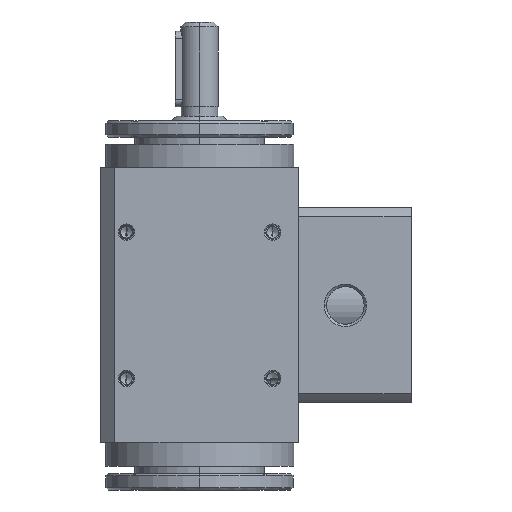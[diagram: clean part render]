
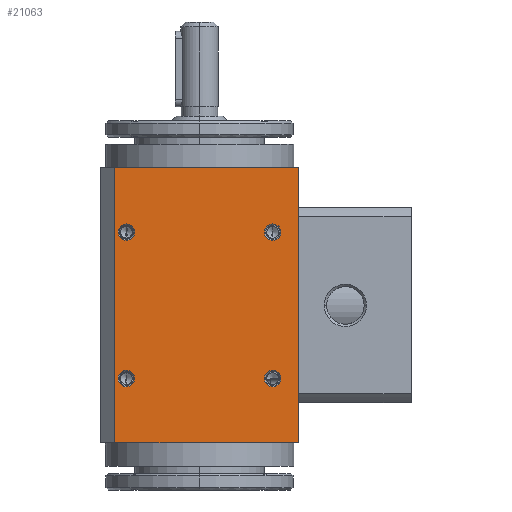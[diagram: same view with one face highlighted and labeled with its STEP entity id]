
A CAD part, front view. The second image highlights one B-rep face of the part: STEP entity #21063.
In plain terms, the highlighted planar face has unit normal (0, -1, 0).
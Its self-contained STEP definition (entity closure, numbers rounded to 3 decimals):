
#1582 = CARTESIAN_POINT ( 'NONE',  ( -21., -21., -29.25 ) ) ;
#1583 = LINE ( 'NONE', #1582, #1682 ) ;
#1682 = VECTOR ( 'NONE', #1727, 1000. ) ;
#1727 = DIRECTION ( 'NONE',  ( -1., 0., 0. ) ) ;
#2386 = CARTESIAN_POINT ( 'NONE',  ( -21., -21., 34.25 ) ) ;
#2391 = DIRECTION ( 'NONE',  ( 0., 0., -1. ) ) ;
#2403 = FACE_OUTER_BOUND ( 'NONE', #29740, .T. ) ;
#2404 = FACE_BOUND ( 'NONE', #29713, .T. ) ;
#2405 = CIRCLE ( 'NONE', #2462, 1.75 ) ;
#2406 = AXIS2_PLACEMENT_3D ( 'NONE', #2386, #2409, #2422 ) ;
#2407 = DIRECTION ( 'NONE',  ( 0., -1., 0. ) ) ;
#2409 = DIRECTION ( 'NONE',  ( 0., 1., 0. ) ) ;
#2410 = PLANE ( 'NONE',  #2406 ) ;
#2412 = FACE_BOUND ( 'NONE', #29704, .T. ) ;
#2422 = DIRECTION ( 'NONE',  ( -1., 0., 0. ) ) ;
#2437 = CARTESIAN_POINT ( 'NONE',  ( 15.556, -21., -15.556 ) ) ;
#2462 = AXIS2_PLACEMENT_3D ( 'NONE', #2437, #2407, #2391 ) ;
#2463 = FACE_BOUND ( 'NONE', #29736, .T. ) ;
#2464 = FACE_BOUND ( 'NONE', #29707, .T. ) ;
#2499 = LINE ( 'NONE', #2500, #2533 ) ;
#2500 = CARTESIAN_POINT ( 'NONE',  ( -18., -21., 34.25 ) ) ;
#2520 = CARTESIAN_POINT ( 'NONE',  ( -18., -21., -29.25 ) ) ;
#2533 = VECTOR ( 'NONE', #2538, 1000. ) ;
#2538 = DIRECTION ( 'NONE',  ( 0., 0., -1. ) ) ;
#5447 = CARTESIAN_POINT ( 'NONE',  ( 21., -21., 29.25 ) ) ;
#5777 = CARTESIAN_POINT ( 'NONE',  ( 21., -21., -29.25 ) ) ;
#6024 = DIRECTION ( 'NONE',  ( 0., 0., -1. ) ) ;
#6025 = VECTOR ( 'NONE', #6024, 1000. ) ;
#6026 = CARTESIAN_POINT ( 'NONE',  ( 21., -21., 34.25 ) ) ;
#6060 = DIRECTION ( 'NONE',  ( 0., 0., -1. ) ) ;
#6061 = DIRECTION ( 'NONE',  ( 0., -1., 0. ) ) ;
#6062 = CARTESIAN_POINT ( 'NONE',  ( -15.556, -21., 15.556 ) ) ;
#6063 = AXIS2_PLACEMENT_3D ( 'NONE', #6062, #6061, #6060 ) ;
#6064 = CIRCLE ( 'NONE', #6063, 1.75 ) ;
#6065 = DIRECTION ( 'NONE',  ( 0., 0., -1. ) ) ;
#6066 = DIRECTION ( 'NONE',  ( 0., -1., 0. ) ) ;
#6067 = CARTESIAN_POINT ( 'NONE',  ( 15.556, -21., 15.556 ) ) ;
#6068 = AXIS2_PLACEMENT_3D ( 'NONE', #6067, #6066, #6065 ) ;
#6069 = CIRCLE ( 'NONE', #6068, 1.75 ) ;
#6092 = LINE ( 'NONE', #6026, #6025 ) ;
#6265 = CARTESIAN_POINT ( 'NONE',  ( -18., -21., 29.25 ) ) ;
#6266 = DIRECTION ( 'NONE',  ( 1., 0., 0. ) ) ;
#6267 = VECTOR ( 'NONE', #6266, 1000. ) ;
#6313 = LINE ( 'NONE', #6319, #6267 ) ;
#6314 = DIRECTION ( 'NONE',  ( 0., 0., -1. ) ) ;
#6315 = DIRECTION ( 'NONE',  ( 0., -1., 0. ) ) ;
#6316 = CARTESIAN_POINT ( 'NONE',  ( -15.556, -21., -15.556 ) ) ;
#6317 = AXIS2_PLACEMENT_3D ( 'NONE', #6316, #6315, #6314 ) ;
#6318 = CIRCLE ( 'NONE', #6317, 1.75 ) ;
#6319 = CARTESIAN_POINT ( 'NONE',  ( -21., -21., 29.25 ) ) ;
#12222 = CARTESIAN_POINT ( 'NONE',  ( 15.556, -21., 17.306 ) ) ;
#12242 = DIRECTION ( 'NONE',  ( 0., 0., -1. ) ) ;
#12243 = DIRECTION ( 'NONE',  ( 0., -1., 0. ) ) ;
#12244 = CARTESIAN_POINT ( 'NONE',  ( 15.556, -21., 15.556 ) ) ;
#12245 = AXIS2_PLACEMENT_3D ( 'NONE', #12244, #12243, #12242 ) ;
#12246 = CIRCLE ( 'NONE', #12245, 1.75 ) ;
#12467 = CARTESIAN_POINT ( 'NONE',  ( 15.556, -21., 13.806 ) ) ;
#12484 = CARTESIAN_POINT ( 'NONE',  ( 15.556, -21., -17.306 ) ) ;
#12499 = CARTESIAN_POINT ( 'NONE',  ( 15.556, -21., -13.806 ) ) ;
#12696 = DIRECTION ( 'NONE',  ( 0., 0., -1. ) ) ;
#12697 = DIRECTION ( 'NONE',  ( 0., -1., 0. ) ) ;
#12698 = CARTESIAN_POINT ( 'NONE',  ( 15.556, -21., -15.556 ) ) ;
#12699 = AXIS2_PLACEMENT_3D ( 'NONE', #12698, #12697, #12696 ) ;
#12700 = CIRCLE ( 'NONE', #12699, 1.75 ) ;
#12869 = DIRECTION ( 'NONE',  ( 0., 0., -1. ) ) ;
#12870 = DIRECTION ( 'NONE',  ( 0., -1., 0. ) ) ;
#12871 = CARTESIAN_POINT ( 'NONE',  ( -15.556, -21., 15.556 ) ) ;
#12872 = AXIS2_PLACEMENT_3D ( 'NONE', #12871, #12870, #12869 ) ;
#12873 = CIRCLE ( 'NONE', #12872, 1.75 ) ;
#12934 = CARTESIAN_POINT ( 'NONE',  ( -15.556, -21., 17.306 ) ) ;
#12943 = CARTESIAN_POINT ( 'NONE',  ( -15.556, -21., 13.806 ) ) ;
#13385 = DIRECTION ( 'NONE',  ( 0., 0., -1. ) ) ;
#13386 = DIRECTION ( 'NONE',  ( 0., -1., 0. ) ) ;
#13387 = CARTESIAN_POINT ( 'NONE',  ( -15.556, -21., -15.556 ) ) ;
#13388 = AXIS2_PLACEMENT_3D ( 'NONE', #13387, #13386, #13385 ) ;
#13389 = CIRCLE ( 'NONE', #13388, 1.75 ) ;
#13396 = CARTESIAN_POINT ( 'NONE',  ( -15.556, -21., -13.806 ) ) ;
#13785 = CARTESIAN_POINT ( 'NONE',  ( -15.556, -21., -17.306 ) ) ;
#20929 = EDGE_CURVE ( 'NONE', #29607, #21084, #1583, .T. ) ;
#20931 = ORIENTED_EDGE ( 'NONE', *, *, #29682, .F. ) ;
#21063 = ADVANCED_FACE ( 'NONE', ( #2412, #2464, #2463, #2404, #2403 ), #2410, .F. ) ;
#21066 = EDGE_CURVE ( 'NONE', #32419, #32393, #2405, .T. ) ;
#21067 = ORIENTED_EDGE ( 'NONE', *, *, #32494, .F. ) ;
#21073 = ORIENTED_EDGE ( 'NONE', *, *, #21066, .F. ) ;
#21082 = EDGE_CURVE ( 'NONE', #29743, #21084, #2499, .T. ) ;
#21084 = VERTEX_POINT ( 'NONE', #2520 ) ;
#21086 = ORIENTED_EDGE ( 'NONE', *, *, #20929, .F. ) ;
#29562 = VERTEX_POINT ( 'NONE', #5447 ) ;
#29607 = VERTEX_POINT ( 'NONE', #5777 ) ;
#29682 = EDGE_CURVE ( 'NONE', #29562, #29607, #6092, .T. ) ;
#29704 = EDGE_LOOP ( 'NONE', ( #21073, #21067 ) ) ;
#29707 = EDGE_LOOP ( 'NONE', ( #29708, #29735 ) ) ;
#29708 = ORIENTED_EDGE ( 'NONE', *, *, #29709, .F. ) ;
#29709 = EDGE_CURVE ( 'NONE', #32351, #32323, #6069, .T. ) ;
#29710 = ORIENTED_EDGE ( 'NONE', *, *, #29711, .F. ) ;
#29711 = EDGE_CURVE ( 'NONE', #32731, #32647, #6064, .T. ) ;
#29712 = ORIENTED_EDGE ( 'NONE', *, *, #32660, .F. ) ;
#29713 = EDGE_LOOP ( 'NONE', ( #29737, #29739 ) ) ;
#29735 = ORIENTED_EDGE ( 'NONE', *, *, #32328, .F. ) ;
#29736 = EDGE_LOOP ( 'NONE', ( #29710, #29712 ) ) ;
#29737 = ORIENTED_EDGE ( 'NONE', *, *, #29738, .F. ) ;
#29738 = EDGE_CURVE ( 'NONE', #33065, #32935, #6318, .T. ) ;
#29739 = ORIENTED_EDGE ( 'NONE', *, *, #32939, .F. ) ;
#29740 = EDGE_LOOP ( 'NONE', ( #29741, #29744, #21086, #20931 ) ) ;
#29741 = ORIENTED_EDGE ( 'NONE', *, *, #29742, .F. ) ;
#29742 = EDGE_CURVE ( 'NONE', #29743, #29562, #6313, .T. ) ;
#29743 = VERTEX_POINT ( 'NONE', #6265 ) ;
#29744 = ORIENTED_EDGE ( 'NONE', *, *, #21082, .T. ) ;
#32323 = VERTEX_POINT ( 'NONE', #12222 ) ;
#32328 = EDGE_CURVE ( 'NONE', #32323, #32351, #12246, .T. ) ;
#32351 = VERTEX_POINT ( 'NONE', #12467 ) ;
#32393 = VERTEX_POINT ( 'NONE', #12499 ) ;
#32419 = VERTEX_POINT ( 'NONE', #12484 ) ;
#32494 = EDGE_CURVE ( 'NONE', #32393, #32419, #12700, .T. ) ;
#32647 = VERTEX_POINT ( 'NONE', #12934 ) ;
#32660 = EDGE_CURVE ( 'NONE', #32647, #32731, #12873, .T. ) ;
#32731 = VERTEX_POINT ( 'NONE', #12943 ) ;
#32935 = VERTEX_POINT ( 'NONE', #13396 ) ;
#32939 = EDGE_CURVE ( 'NONE', #32935, #33065, #13389, .T. ) ;
#33065 = VERTEX_POINT ( 'NONE', #13785 ) ;
